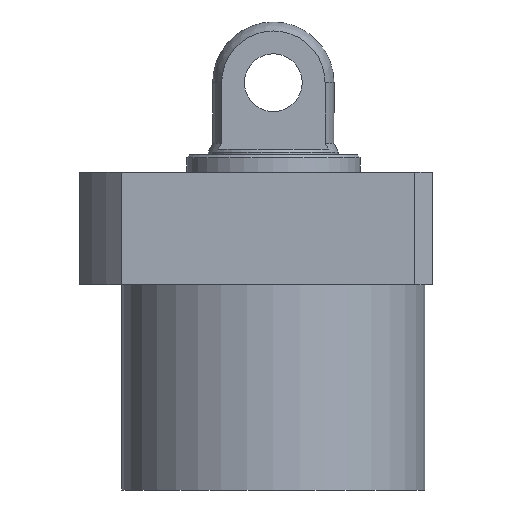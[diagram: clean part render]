
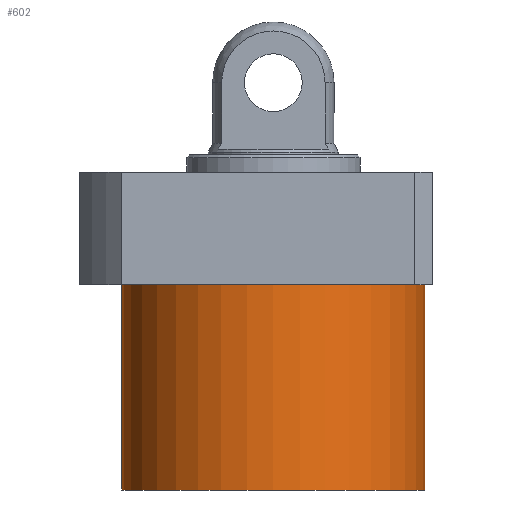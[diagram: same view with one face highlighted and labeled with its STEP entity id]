
A CAD part, front view. The second image highlights one B-rep face of the part: STEP entity #602.
In plain terms, the highlighted cylindrical face has radius 52.5 mm (diameter 105 mm), a partial arc.
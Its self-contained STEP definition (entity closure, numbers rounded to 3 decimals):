
#47 = EDGE_CURVE ( 'NONE', #93, #722, #148, .T. ) ;
#89 = CIRCLE ( 'NONE', #878, 52.5 ) ;
#93 = VERTEX_POINT ( 'NONE', #1617 ) ;
#148 = LINE ( 'NONE', #647, #1495 ) ;
#184 = CYLINDRICAL_SURFACE ( 'NONE', #820, 52.5 ) ;
#186 = EDGE_CURVE ( 'NONE', #722, #1157, #308, .T. ) ;
#241 = CARTESIAN_POINT ( 'NONE',  ( 0., 0., -90.5 ) ) ;
#308 = CIRCLE ( 'NONE', #739, 52.5 ) ;
#313 = LINE ( 'NONE', #1010, #1287 ) ;
#334 = DIRECTION ( 'NONE',  ( 0., 0., -1. ) ) ;
#402 = DIRECTION ( 'NONE',  ( 0., 0., 1. ) ) ;
#480 = DIRECTION ( 'NONE',  ( 0., 0., 1. ) ) ;
#602 = ADVANCED_FACE ( 'NONE', ( #894 ), #184, .T. ) ;
#647 = CARTESIAN_POINT ( 'NONE',  ( 52.5, 0., -90.5 ) ) ;
#653 = DIRECTION ( 'NONE',  ( 0., 0., -1. ) ) ;
#693 = ORIENTED_EDGE ( 'NONE', *, *, #1482, .F. ) ;
#694 = ORIENTED_EDGE ( 'NONE', *, *, #1445, .F. ) ;
#708 = CARTESIAN_POINT ( 'NONE',  ( 52.5, 0., -19.5 ) ) ;
#721 = VERTEX_POINT ( 'NONE', #1665 ) ;
#722 = VERTEX_POINT ( 'NONE', #708 ) ;
#739 = AXIS2_PLACEMENT_3D ( 'NONE', #1472, #653, #1608 ) ;
#757 = CARTESIAN_POINT ( 'NONE',  ( 0., 0., -90.5 ) ) ;
#820 = AXIS2_PLACEMENT_3D ( 'NONE', #241, #402, #1210 ) ;
#878 = AXIS2_PLACEMENT_3D ( 'NONE', #757, #334, #1413 ) ;
#894 = FACE_OUTER_BOUND ( 'NONE', #956, .T. ) ;
#956 = EDGE_LOOP ( 'NONE', ( #694, #693, #1505, #1124 ) ) ;
#1010 = CARTESIAN_POINT ( 'NONE',  ( -52.5, 0., -90.5 ) ) ;
#1124 = ORIENTED_EDGE ( 'NONE', *, *, #186, .T. ) ;
#1157 = VERTEX_POINT ( 'NONE', #1213 ) ;
#1210 = DIRECTION ( 'NONE',  ( 1., 0., 0. ) ) ;
#1213 = CARTESIAN_POINT ( 'NONE',  ( -52.5, 0., -19.5 ) ) ;
#1282 = DIRECTION ( 'NONE',  ( 0., 0., 1. ) ) ;
#1287 = VECTOR ( 'NONE', #1282, 1000. ) ;
#1413 = DIRECTION ( 'NONE',  ( -1., 0., 0. ) ) ;
#1445 = EDGE_CURVE ( 'NONE', #721, #1157, #313, .T. ) ;
#1472 = CARTESIAN_POINT ( 'NONE',  ( 0., 0., -19.5 ) ) ;
#1482 = EDGE_CURVE ( 'NONE', #93, #721, #89, .T. ) ;
#1495 = VECTOR ( 'NONE', #480, 1000. ) ;
#1505 = ORIENTED_EDGE ( 'NONE', *, *, #47, .T. ) ;
#1608 = DIRECTION ( 'NONE',  ( 1., 0., 0. ) ) ;
#1617 = CARTESIAN_POINT ( 'NONE',  ( 52.5, 0., -90.5 ) ) ;
#1665 = CARTESIAN_POINT ( 'NONE',  ( -52.5, 0., -90.5 ) ) ;
